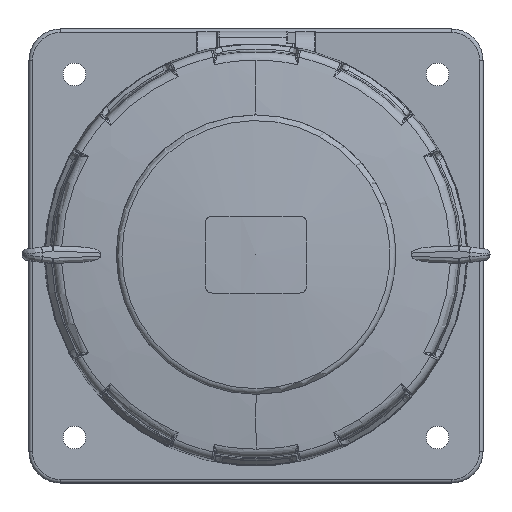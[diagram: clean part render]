
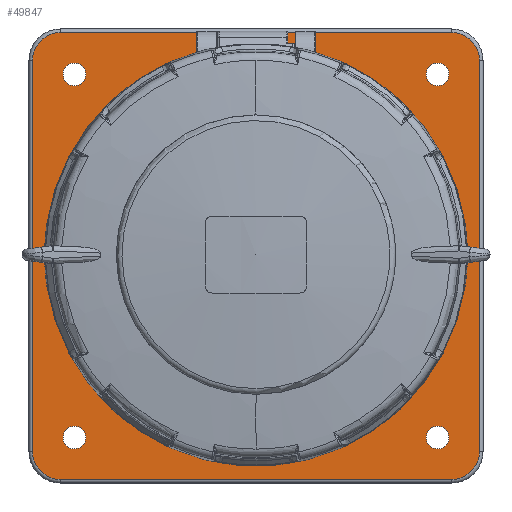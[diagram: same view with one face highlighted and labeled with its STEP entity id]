
A CAD part, top view. The second image highlights one B-rep face of the part: STEP entity #49847.
In plain terms, the highlighted planar face has unit normal (0, 0, 1).
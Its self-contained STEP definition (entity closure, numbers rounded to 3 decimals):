
#49847 = ADVANCED_FACE('',(#49848,#49918,#49938,#49958,#49978,#49998),
  #50018,.F.);
#49848 = FACE_BOUND('',#49849,.T.);
#49849 = EDGE_LOOP('',(#49850,#49860,#49869,#49877,#49886,#49894,#49903,
    #49911));
#49850 = ORIENTED_EDGE('',*,*,#49851,.T.);
#49851 = EDGE_CURVE('',#49852,#49854,#49856,.T.);
#49852 = VERTEX_POINT('',#49853);
#49853 = CARTESIAN_POINT('',(56.,64.,-17.2));
#49854 = VERTEX_POINT('',#49855);
#49855 = CARTESIAN_POINT('',(-56.,64.,-17.2));
#49856 = LINE('',#49857,#49858);
#49857 = CARTESIAN_POINT('',(56.,64.,-17.2));
#49858 = VECTOR('',#49859,1.);
#49859 = DIRECTION('',(-1.,0.,0.));
#49860 = ORIENTED_EDGE('',*,*,#49861,.T.);
#49861 = EDGE_CURVE('',#49854,#49862,#49864,.T.);
#49862 = VERTEX_POINT('',#49863);
#49863 = CARTESIAN_POINT('',(-64.,56.,-17.2));
#49864 = CIRCLE('',#49865,8.);
#49865 = AXIS2_PLACEMENT_3D('',#49866,#49867,#49868);
#49866 = CARTESIAN_POINT('',(-56.,56.,-17.2));
#49867 = DIRECTION('',(0.,-0.,1.));
#49868 = DIRECTION('',(0.,1.,0.));
#49869 = ORIENTED_EDGE('',*,*,#49870,.T.);
#49870 = EDGE_CURVE('',#49862,#49871,#49873,.T.);
#49871 = VERTEX_POINT('',#49872);
#49872 = CARTESIAN_POINT('',(-64.,-56.,-17.2));
#49873 = LINE('',#49874,#49875);
#49874 = CARTESIAN_POINT('',(-64.,56.,-17.2));
#49875 = VECTOR('',#49876,1.);
#49876 = DIRECTION('',(0.,-1.,0.));
#49877 = ORIENTED_EDGE('',*,*,#49878,.T.);
#49878 = EDGE_CURVE('',#49871,#49879,#49881,.T.);
#49879 = VERTEX_POINT('',#49880);
#49880 = CARTESIAN_POINT('',(-56.,-64.,-17.2));
#49881 = CIRCLE('',#49882,8.);
#49882 = AXIS2_PLACEMENT_3D('',#49883,#49884,#49885);
#49883 = CARTESIAN_POINT('',(-56.,-56.,-17.2));
#49884 = DIRECTION('',(0.,0.,1.));
#49885 = DIRECTION('',(-1.,0.,0.));
#49886 = ORIENTED_EDGE('',*,*,#49887,.T.);
#49887 = EDGE_CURVE('',#49879,#49888,#49890,.T.);
#49888 = VERTEX_POINT('',#49889);
#49889 = CARTESIAN_POINT('',(56.,-64.,-17.2));
#49890 = LINE('',#49891,#49892);
#49891 = CARTESIAN_POINT('',(-56.,-64.,-17.2));
#49892 = VECTOR('',#49893,1.);
#49893 = DIRECTION('',(1.,0.,0.));
#49894 = ORIENTED_EDGE('',*,*,#49895,.T.);
#49895 = EDGE_CURVE('',#49888,#49896,#49898,.T.);
#49896 = VERTEX_POINT('',#49897);
#49897 = CARTESIAN_POINT('',(64.,-56.,-17.2));
#49898 = CIRCLE('',#49899,8.);
#49899 = AXIS2_PLACEMENT_3D('',#49900,#49901,#49902);
#49900 = CARTESIAN_POINT('',(56.,-56.,-17.2));
#49901 = DIRECTION('',(0.,0.,1.));
#49902 = DIRECTION('',(0.,-1.,0.));
#49903 = ORIENTED_EDGE('',*,*,#49904,.T.);
#49904 = EDGE_CURVE('',#49896,#49905,#49907,.T.);
#49905 = VERTEX_POINT('',#49906);
#49906 = CARTESIAN_POINT('',(64.,56.,-17.2));
#49907 = LINE('',#49908,#49909);
#49908 = CARTESIAN_POINT('',(64.,-56.,-17.2));
#49909 = VECTOR('',#49910,1.);
#49910 = DIRECTION('',(0.,1.,0.));
#49911 = ORIENTED_EDGE('',*,*,#49912,.T.);
#49912 = EDGE_CURVE('',#49905,#49852,#49913,.T.);
#49913 = CIRCLE('',#49914,8.);
#49914 = AXIS2_PLACEMENT_3D('',#49915,#49916,#49917);
#49915 = CARTESIAN_POINT('',(56.,56.,-17.2));
#49916 = DIRECTION('',(0.,0.,1.));
#49917 = DIRECTION('',(1.,0.,-0.));
#49918 = FACE_BOUND('',#49919,.T.);
#49919 = EDGE_LOOP('',(#49920,#49931));
#49920 = ORIENTED_EDGE('',*,*,#49921,.T.);
#49921 = EDGE_CURVE('',#49922,#49924,#49926,.T.);
#49922 = VERTEX_POINT('',#49923);
#49923 = CARTESIAN_POINT('',(52.,55.25,-17.2));
#49924 = VERTEX_POINT('',#49925);
#49925 = CARTESIAN_POINT('',(52.,48.75,-17.2));
#49926 = CIRCLE('',#49927,3.25);
#49927 = AXIS2_PLACEMENT_3D('',#49928,#49929,#49930);
#49928 = CARTESIAN_POINT('',(52.,52.,-17.2));
#49929 = DIRECTION('',(0.,0.,-1.));
#49930 = DIRECTION('',(0.,1.,0.));
#49931 = ORIENTED_EDGE('',*,*,#49932,.T.);
#49932 = EDGE_CURVE('',#49924,#49922,#49933,.T.);
#49933 = CIRCLE('',#49934,3.25);
#49934 = AXIS2_PLACEMENT_3D('',#49935,#49936,#49937);
#49935 = CARTESIAN_POINT('',(52.,52.,-17.2));
#49936 = DIRECTION('',(0.,0.,-1.));
#49937 = DIRECTION('',(0.,-1.,0.));
#49938 = FACE_BOUND('',#49939,.T.);
#49939 = EDGE_LOOP('',(#49940,#49951));
#49940 = ORIENTED_EDGE('',*,*,#49941,.T.);
#49941 = EDGE_CURVE('',#49942,#49944,#49946,.T.);
#49942 = VERTEX_POINT('',#49943);
#49943 = CARTESIAN_POINT('',(52.,-48.75,-17.2));
#49944 = VERTEX_POINT('',#49945);
#49945 = CARTESIAN_POINT('',(52.,-55.25,-17.2));
#49946 = CIRCLE('',#49947,3.25);
#49947 = AXIS2_PLACEMENT_3D('',#49948,#49949,#49950);
#49948 = CARTESIAN_POINT('',(52.,-52.,-17.2));
#49949 = DIRECTION('',(0.,0.,-1.));
#49950 = DIRECTION('',(0.,1.,0.));
#49951 = ORIENTED_EDGE('',*,*,#49952,.T.);
#49952 = EDGE_CURVE('',#49944,#49942,#49953,.T.);
#49953 = CIRCLE('',#49954,3.25);
#49954 = AXIS2_PLACEMENT_3D('',#49955,#49956,#49957);
#49955 = CARTESIAN_POINT('',(52.,-52.,-17.2));
#49956 = DIRECTION('',(0.,0.,-1.));
#49957 = DIRECTION('',(0.,-1.,0.));
#49958 = FACE_BOUND('',#49959,.T.);
#49959 = EDGE_LOOP('',(#49960,#49971));
#49960 = ORIENTED_EDGE('',*,*,#49961,.T.);
#49961 = EDGE_CURVE('',#49962,#49964,#49966,.T.);
#49962 = VERTEX_POINT('',#49963);
#49963 = CARTESIAN_POINT('',(-52.,55.25,-17.2));
#49964 = VERTEX_POINT('',#49965);
#49965 = CARTESIAN_POINT('',(-52.,48.75,-17.2));
#49966 = CIRCLE('',#49967,3.25);
#49967 = AXIS2_PLACEMENT_3D('',#49968,#49969,#49970);
#49968 = CARTESIAN_POINT('',(-52.,52.,-17.2));
#49969 = DIRECTION('',(0.,0.,-1.));
#49970 = DIRECTION('',(0.,1.,0.));
#49971 = ORIENTED_EDGE('',*,*,#49972,.T.);
#49972 = EDGE_CURVE('',#49964,#49962,#49973,.T.);
#49973 = CIRCLE('',#49974,3.25);
#49974 = AXIS2_PLACEMENT_3D('',#49975,#49976,#49977);
#49975 = CARTESIAN_POINT('',(-52.,52.,-17.2));
#49976 = DIRECTION('',(0.,0.,-1.));
#49977 = DIRECTION('',(0.,-1.,0.));
#49978 = FACE_BOUND('',#49979,.T.);
#49979 = EDGE_LOOP('',(#49980,#49991));
#49980 = ORIENTED_EDGE('',*,*,#49981,.T.);
#49981 = EDGE_CURVE('',#49982,#49984,#49986,.T.);
#49982 = VERTEX_POINT('',#49983);
#49983 = CARTESIAN_POINT('',(-52.,-48.75,-17.2));
#49984 = VERTEX_POINT('',#49985);
#49985 = CARTESIAN_POINT('',(-52.,-55.25,-17.2));
#49986 = CIRCLE('',#49987,3.25);
#49987 = AXIS2_PLACEMENT_3D('',#49988,#49989,#49990);
#49988 = CARTESIAN_POINT('',(-52.,-52.,-17.2));
#49989 = DIRECTION('',(0.,0.,-1.));
#49990 = DIRECTION('',(0.,1.,0.));
#49991 = ORIENTED_EDGE('',*,*,#49992,.T.);
#49992 = EDGE_CURVE('',#49984,#49982,#49993,.T.);
#49993 = CIRCLE('',#49994,3.25);
#49994 = AXIS2_PLACEMENT_3D('',#49995,#49996,#49997);
#49995 = CARTESIAN_POINT('',(-52.,-52.,-17.2));
#49996 = DIRECTION('',(0.,0.,-1.));
#49997 = DIRECTION('',(0.,-1.,0.));
#49998 = FACE_BOUND('',#49999,.T.);
#49999 = EDGE_LOOP('',(#50000,#50011));
#50000 = ORIENTED_EDGE('',*,*,#50001,.T.);
#50001 = EDGE_CURVE('',#50002,#50004,#50006,.T.);
#50002 = VERTEX_POINT('',#50003);
#50003 = CARTESIAN_POINT('',(-58.,0.,-17.2));
#50004 = VERTEX_POINT('',#50005);
#50005 = CARTESIAN_POINT('',(58.,0.,-17.2));
#50006 = CIRCLE('',#50007,58.);
#50007 = AXIS2_PLACEMENT_3D('',#50008,#50009,#50010);
#50008 = CARTESIAN_POINT('',(0.,0.,-17.2));
#50009 = DIRECTION('',(0.,0.,-1.));
#50010 = DIRECTION('',(-1.,0.,0.));
#50011 = ORIENTED_EDGE('',*,*,#50012,.T.);
#50012 = EDGE_CURVE('',#50004,#50002,#50013,.T.);
#50013 = CIRCLE('',#50014,58.);
#50014 = AXIS2_PLACEMENT_3D('',#50015,#50016,#50017);
#50015 = CARTESIAN_POINT('',(0.,0.,-17.2));
#50016 = DIRECTION('',(0.,0.,-1.));
#50017 = DIRECTION('',(1.,0.,0.));
#50018 = PLANE('',#50019);
#50019 = AXIS2_PLACEMENT_3D('',#50020,#50021,#50022);
#50020 = CARTESIAN_POINT('',(0.,0.,-17.2));
#50021 = DIRECTION('',(0.,0.,-1.));
#50022 = DIRECTION('',(-1.,0.,0.));
